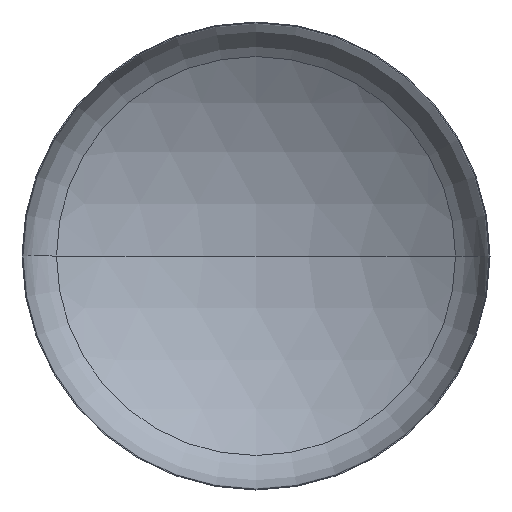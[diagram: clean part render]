
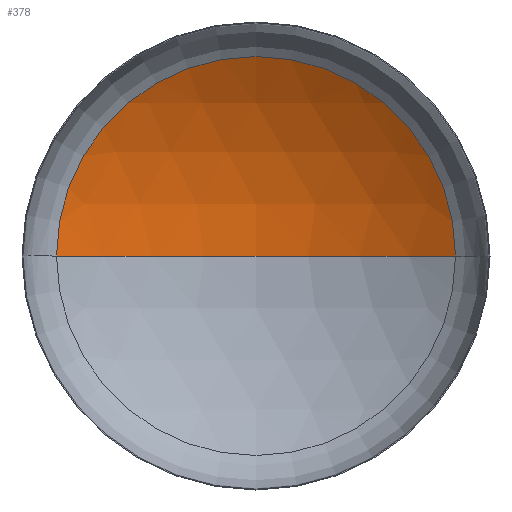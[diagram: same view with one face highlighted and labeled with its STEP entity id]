
A CAD part, front view. The second image highlights one B-rep face of the part: STEP entity #378.
In plain terms, the highlighted spherical face has radius 4000 mm.
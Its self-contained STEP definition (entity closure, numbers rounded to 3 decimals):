
#2 = DIRECTION ( 'NONE',  ( -1., 0., 0. ) ) ;
#6 = AXIS2_PLACEMENT_3D ( 'NONE', #291, #107, #314 ) ;
#24 = CIRCLE ( 'NONE', #6, 2131.269 ) ;
#29 = AXIS2_PLACEMENT_3D ( 'NONE', #363, #214, #385 ) ;
#33 = AXIS2_PLACEMENT_3D ( 'NONE', #407, #262, #47 ) ;
#47 = DIRECTION ( 'NONE',  ( -1., 0., 0. ) ) ;
#79 = VERTEX_POINT ( 'NONE', #194 ) ;
#81 = VERTEX_POINT ( 'NONE', #260 ) ;
#105 = VERTEX_POINT ( 'NONE', #230 ) ;
#107 = DIRECTION ( 'NONE',  ( 0., -1., 0. ) ) ;
#120 = EDGE_LOOP ( 'NONE', ( #174, #176, #147 ) ) ;
#147 = ORIENTED_EDGE ( 'NONE', *, *, #345, .T. ) ;
#174 = ORIENTED_EDGE ( 'NONE', *, *, #325, .F. ) ;
#176 = ORIENTED_EDGE ( 'NONE', *, *, #310, .T. ) ;
#180 = CIRCLE ( 'NONE', #33, 4000. ) ;
#194 = CARTESIAN_POINT ( 'NONE',  ( -2131.269, 681.597, 0. ) ) ;
#214 = DIRECTION ( 'NONE',  ( 0., 0., 1. ) ) ;
#230 = CARTESIAN_POINT ( 'NONE',  ( 2131.269, 681.597, 0. ) ) ;
#244 = DIRECTION ( 'NONE',  ( 0., 0., -1. ) ) ;
#260 = CARTESIAN_POINT ( 'NONE',  ( 0., 1296.676, 0. ) ) ;
#262 = DIRECTION ( 'NONE',  ( 0., 0., -1. ) ) ;
#291 = CARTESIAN_POINT ( 'NONE',  ( 0., 681.597, 0. ) ) ;
#303 = CIRCLE ( 'NONE', #29, 4000. ) ;
#310 = EDGE_CURVE ( 'NONE', #81, #105, #180, .T. ) ;
#314 = DIRECTION ( 'NONE',  ( 1., 0., 0. ) ) ;
#325 = EDGE_CURVE ( 'NONE', #81, #79, #303, .T. ) ;
#338 = CARTESIAN_POINT ( 'NONE',  ( 0., -2703.324, 0. ) ) ;
#341 = AXIS2_PLACEMENT_3D ( 'NONE', #338, #244, #2 ) ;
#345 = EDGE_CURVE ( 'NONE', #105, #79, #24, .T. ) ;
#349 = FACE_OUTER_BOUND ( 'NONE', #120, .T. ) ;
#363 = CARTESIAN_POINT ( 'NONE',  ( 0., -2703.324, 0. ) ) ;
#378 = ADVANCED_FACE ( 'NONE', ( #349 ), #406, .F. ) ;
#385 = DIRECTION ( 'NONE',  ( 1., 0., 0. ) ) ;
#406 = SPHERICAL_SURFACE ( 'NONE', #341, 4000. ) ;
#407 = CARTESIAN_POINT ( 'NONE',  ( 0., -2703.324, 0. ) ) ;
